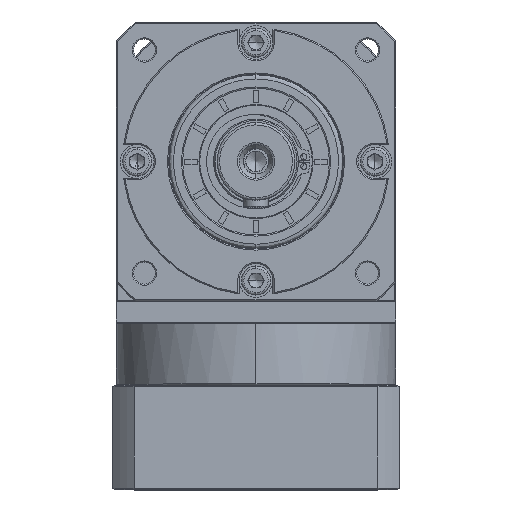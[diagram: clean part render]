
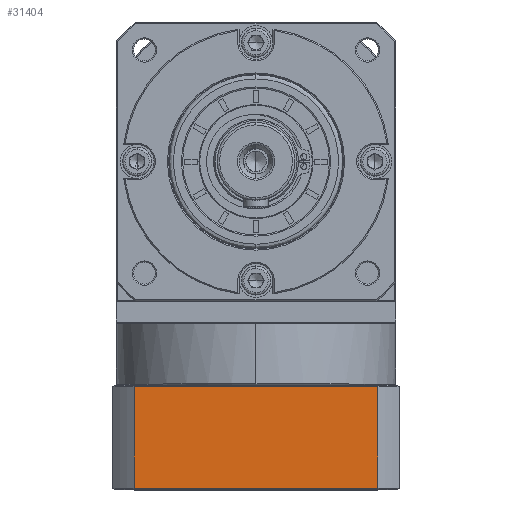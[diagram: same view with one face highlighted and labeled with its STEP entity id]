
A CAD part, top view. The second image highlights one B-rep face of the part: STEP entity #31404.
In plain terms, the highlighted planar face has unit normal (0, 0, 1).
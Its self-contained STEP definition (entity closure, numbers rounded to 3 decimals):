
#9378 = VERTEX_POINT ( 'NONE', #158913 ) ;
#11422 = FACE_OUTER_BOUND ( 'NONE', #33978, .T. ) ;
#19627 = VECTOR ( 'NONE', #118015, 1000. ) ;
#26319 = VERTEX_POINT ( 'NONE', #90562 ) ;
#31404 = ADVANCED_FACE ( 'NONE', ( #11422 ), #173884, .F. ) ;
#33978 = EDGE_LOOP ( 'NONE', ( #150148, #101184, #47775, #103913 ) ) ;
#36753 = CARTESIAN_POINT ( 'NONE',  ( -233.504, -102.367, 124.051 ) ) ;
#47602 = VERTEX_POINT ( 'NONE', #64177 ) ;
#47775 = ORIENTED_EDGE ( 'NONE', *, *, #124857, .F. ) ;
#57810 = CARTESIAN_POINT ( 'NONE',  ( -233.504, -144.367, 124.051 ) ) ;
#61155 = EDGE_CURVE ( 'NONE', #26319, #9378, #146072, .T. ) ;
#63911 = CARTESIAN_POINT ( 'NONE',  ( -124.252, 119.528, 124.051 ) ) ;
#64177 = CARTESIAN_POINT ( 'NONE',  ( -224.756, -144.367, 124.051 ) ) ;
#67080 = CARTESIAN_POINT ( 'NONE',  ( -233.504, -144.867, 124.051 ) ) ;
#67675 = EDGE_CURVE ( 'NONE', #9378, #47602, #102336, .T. ) ;
#80638 = DIRECTION ( 'NONE',  ( -1., 0., 0. ) ) ;
#84828 = CARTESIAN_POINT ( 'NONE',  ( -224.756, -144.867, 124.051 ) ) ;
#90562 = CARTESIAN_POINT ( 'NONE',  ( -124.252, -102.367, 124.051 ) ) ;
#91663 = AXIS2_PLACEMENT_3D ( 'NONE', #67080, #160961, #80638 ) ;
#91765 = VERTEX_POINT ( 'NONE', #152352 ) ;
#98088 = VECTOR ( 'NONE', #111856, 1000. ) ;
#101184 = ORIENTED_EDGE ( 'NONE', *, *, #110539, .F. ) ;
#102336 = LINE ( 'NONE', #57810, #133900 ) ;
#103913 = ORIENTED_EDGE ( 'NONE', *, *, #67675, .F. ) ;
#110539 = EDGE_CURVE ( 'NONE', #91765, #26319, #127023, .T. ) ;
#111856 = DIRECTION ( 'NONE',  ( 0., 1., 0. ) ) ;
#118015 = DIRECTION ( 'NONE',  ( 1., 0., 0. ) ) ;
#124857 = EDGE_CURVE ( 'NONE', #47602, #91765, #165251, .T. ) ;
#127023 = LINE ( 'NONE', #36753, #19627 ) ;
#133900 = VECTOR ( 'NONE', #151867, 1000. ) ;
#146072 = LINE ( 'NONE', #63911, #150292 ) ;
#150148 = ORIENTED_EDGE ( 'NONE', *, *, #61155, .F. ) ;
#150292 = VECTOR ( 'NONE', #158471, 1000. ) ;
#151867 = DIRECTION ( 'NONE',  ( -1., 0., 0. ) ) ;
#152352 = CARTESIAN_POINT ( 'NONE',  ( -224.756, -102.367, 124.051 ) ) ;
#158471 = DIRECTION ( 'NONE',  ( 0., -1., 0. ) ) ;
#158913 = CARTESIAN_POINT ( 'NONE',  ( -124.252, -144.367, 124.051 ) ) ;
#160961 = DIRECTION ( 'NONE',  ( 0., 0., -1. ) ) ;
#165251 = LINE ( 'NONE', #84828, #98088 ) ;
#173884 = PLANE ( 'NONE',  #91663 ) ;
